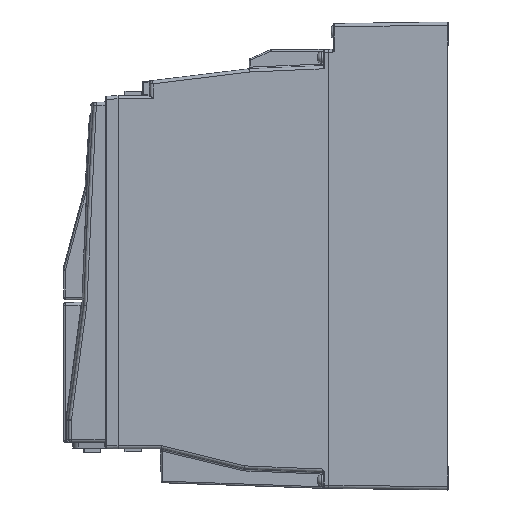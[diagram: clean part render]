
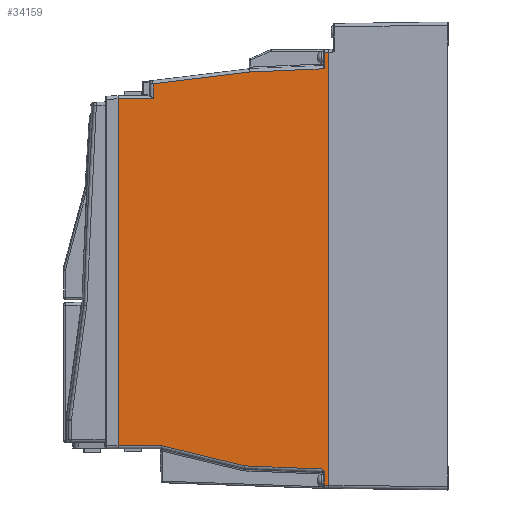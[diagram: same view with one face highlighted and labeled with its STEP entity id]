
A CAD part, left-side view. The second image highlights one B-rep face of the part: STEP entity #34159.
In plain terms, the highlighted planar face has unit normal (-1, 0, 0).
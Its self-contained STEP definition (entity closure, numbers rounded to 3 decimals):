
#659 = DIRECTION ( 'NONE',  ( 0., 0., -1. ) ) ;
#1110 = CARTESIAN_POINT ( 'NONE',  ( -64., 182.5, -289. ) ) ;
#1168 = ORIENTED_EDGE ( 'NONE', *, *, #24129, .T. ) ;
#2434 = FACE_OUTER_BOUND ( 'NONE', #45178, .T. ) ;
#2467 = VERTEX_POINT ( 'NONE', #44204 ) ;
#2636 = LINE ( 'NONE', #16675, #30031 ) ;
#2675 = AXIS2_PLACEMENT_3D ( 'NONE', #16246, #30483, #13183 ) ;
#2777 = ORIENTED_EDGE ( 'NONE', *, *, #27742, .T. ) ;
#2899 = CARTESIAN_POINT ( 'NONE',  ( -64., 76.5, -19. ) ) ;
#2935 = VERTEX_POINT ( 'NONE', #11212 ) ;
#3319 = CARTESIAN_POINT ( 'NONE',  ( -64., 77.016, -277.606 ) ) ;
#3928 = DIRECTION ( 'NONE',  ( 0., 0., -1. ) ) ;
#4038 = EDGE_CURVE ( 'NONE', #17899, #43470, #4392, .T. ) ;
#4219 = VECTOR ( 'NONE', #13878, 1000. ) ;
#4392 = LINE ( 'NONE', #1110, #10071 ) ;
#4527 = DIRECTION ( 'NONE',  ( 0., 1., 0. ) ) ;
#4577 = LINE ( 'NONE', #29588, #45369 ) ;
#5178 = EDGE_CURVE ( 'NONE', #25545, #16874, #43689, .T. ) ;
#5185 = LINE ( 'NONE', #15727, #30390 ) ;
#5238 = VERTEX_POINT ( 'NONE', #19838 ) ;
#5364 = VECTOR ( 'NONE', #11656, 1000. ) ;
#5579 = DIRECTION ( 'NONE',  ( 0., 1., 0. ) ) ;
#5640 = DIRECTION ( 'NONE',  ( 0., 0.999, -0.043 ) ) ;
#6242 = LINE ( 'NONE', #20526, #28991 ) ;
#6420 = VECTOR ( 'NONE', #4527, 1000. ) ;
#7176 = CARTESIAN_POINT ( 'NONE',  ( -64., 182.5, -38.271 ) ) ;
#7691 = CARTESIAN_POINT ( 'NONE',  ( -64., 76.92, -277.036 ) ) ;
#8981 = LINE ( 'NONE', #18440, #44287 ) ;
#9863 = CARTESIAN_POINT ( 'NONE',  ( -64., 77.5, -277.013 ) ) ;
#10004 = CARTESIAN_POINT ( 'NONE',  ( -64., 202.8, -19. ) ) ;
#10071 = VECTOR ( 'NONE', #3928, 1000. ) ;
#10227 = VECTOR ( 'NONE', #21917, 1000. ) ;
#10334 = CARTESIAN_POINT ( 'NONE',  ( -64., 76.5, -279.014 ) ) ;
#10425 = EDGE_CURVE ( 'NONE', #34746, #18951, #4577, .T. ) ;
#10828 = EDGE_CURVE ( 'NONE', #16874, #23246, #33806, .T. ) ;
#11150 = EDGE_CURVE ( 'NONE', #20211, #2467, #6242, .T. ) ;
#11212 = CARTESIAN_POINT ( 'NONE',  ( -64., 122.835, -30.995 ) ) ;
#11653 = VERTEX_POINT ( 'NONE', #15073 ) ;
#11656 = DIRECTION ( 'NONE',  ( 0., -0.999, -0.041 ) ) ;
#13183 = DIRECTION ( 'NONE',  ( 0., 0., -1. ) ) ;
#13878 = DIRECTION ( 'NONE',  ( 0., -1., 0. ) ) ;
#15073 = CARTESIAN_POINT ( 'NONE',  ( -64., 73.67, -19. ) ) ;
#15295 = LINE ( 'NONE', #40747, #6420 ) ;
#15727 = CARTESIAN_POINT ( 'NONE',  ( -64., 213.846, -34.952 ) ) ;
#16246 = CARTESIAN_POINT ( 'NONE',  ( -64., 202.8, -289. ) ) ;
#16675 = CARTESIAN_POINT ( 'NONE',  ( -64., 204.2, -262.5 ) ) ;
#16689 = LINE ( 'NONE', #42154, #4219 ) ;
#16874 = VERTEX_POINT ( 'NONE', #35408 ) ;
#17136 = CARTESIAN_POINT ( 'NONE',  ( -64., 76.733, -278.099 ) ) ;
#17860 = EDGE_CURVE ( 'NONE', #2935, #17899, #31961, .T. ) ;
#17899 = VERTEX_POINT ( 'NONE', #7176 ) ;
#18440 = CARTESIAN_POINT ( 'NONE',  ( -64., 73.67, -19. ) ) ;
#18951 = VERTEX_POINT ( 'NONE', #24981 ) ;
#19838 = CARTESIAN_POINT ( 'NONE',  ( -64., 73.67, -287. ) ) ;
#20211 = VERTEX_POINT ( 'NONE', #44197 ) ;
#20308 = CARTESIAN_POINT ( 'NONE',  ( -64., 76.5, -287. ) ) ;
#20526 = CARTESIAN_POINT ( 'NONE',  ( -64., 202.8, -262.5 ) ) ;
#20532 = ORIENTED_EDGE ( 'NONE', *, *, #17860, .T. ) ;
#20615 = EDGE_CURVE ( 'NONE', #43470, #43654, #15295, .T. ) ;
#21398 = CARTESIAN_POINT ( 'NONE',  ( -64., 76.5, -279.014 ) ) ;
#21917 = DIRECTION ( 'NONE',  ( 0., 0.993, -0.121 ) ) ;
#23218 = VECTOR ( 'NONE', #45461, 1000. ) ;
#23246 = VERTEX_POINT ( 'NONE', #21398 ) ;
#24129 = EDGE_CURVE ( 'NONE', #2467, #25545, #31907, .T. ) ;
#24135 = CARTESIAN_POINT ( 'NONE',  ( -64., 76.535, -278.634 ) ) ;
#24501 = DIRECTION ( 'NONE',  ( 0., -1., 0. ) ) ;
#24935 = ORIENTED_EDGE ( 'NONE', *, *, #31478, .T. ) ;
#24981 = CARTESIAN_POINT ( 'NONE',  ( -64., 76.5, -28.98 ) ) ;
#25545 = VERTEX_POINT ( 'NONE', #31629 ) ;
#26184 = ORIENTED_EDGE ( 'NONE', *, *, #30291, .F. ) ;
#26401 = ORIENTED_EDGE ( 'NONE', *, *, #11150, .T. ) ;
#27742 = EDGE_CURVE ( 'NONE', #23246, #36571, #41951, .T. ) ;
#28222 = CARTESIAN_POINT ( 'NONE',  ( -64., 232.631, -44.384 ) ) ;
#28991 = VECTOR ( 'NONE', #24501, 1000. ) ;
#29588 = CARTESIAN_POINT ( 'NONE',  ( -64., 76.5, -289. ) ) ;
#30031 = VECTOR ( 'NONE', #30907, 1000. ) ;
#30138 = ORIENTED_EDGE ( 'NONE', *, *, #37325, .T. ) ;
#30291 = EDGE_CURVE ( 'NONE', #20211, #43654, #2636, .T. ) ;
#30390 = VECTOR ( 'NONE', #5640, 1000. ) ;
#30483 = DIRECTION ( 'NONE',  ( 1., 0., 0. ) ) ;
#30520 = ORIENTED_EDGE ( 'NONE', *, *, #20615, .T. ) ;
#30907 = DIRECTION ( 'NONE',  ( 0., 0., 1. ) ) ;
#31478 = EDGE_CURVE ( 'NONE', #11653, #34746, #37594, .T. ) ;
#31629 = CARTESIAN_POINT ( 'NONE',  ( -64., 125.725, -275.044 ) ) ;
#31747 = EDGE_CURVE ( 'NONE', #11653, #5238, #8981, .T. ) ;
#31907 = LINE ( 'NONE', #45246, #42596 ) ;
#31961 = LINE ( 'NONE', #28222, #10227 ) ;
#33650 = ORIENTED_EDGE ( 'NONE', *, *, #10828, .T. ) ;
#33806 = B_SPLINE_CURVE_WITH_KNOTS ( 'NONE', 3,
 ( #9863, #42130, #3319, #17136, #38843, #24135, #42824, #10334 ),
 .UNSPECIFIED., .F., .F.,
 ( 4, 2, 2, 4 ),
 ( 0., 0.001, 0.002, 0.002 ),
 .UNSPECIFIED. ) ;
#33992 = PLANE ( 'NONE',  #2675 ) ;
#34159 = ADVANCED_FACE ( 'NONE', ( #2434 ), #33992, .F. ) ;
#34714 = CARTESIAN_POINT ( 'NONE',  ( -64., 76.5, -289. ) ) ;
#34746 = VERTEX_POINT ( 'NONE', #2899 ) ;
#35408 = CARTESIAN_POINT ( 'NONE',  ( -64., 77.5, -277.013 ) ) ;
#35430 = DIRECTION ( 'NONE',  ( 0., -0.972, -0.236 ) ) ;
#35979 = CARTESIAN_POINT ( 'NONE',  ( -64., 204.2, -47.5 ) ) ;
#36121 = ORIENTED_EDGE ( 'NONE', *, *, #5178, .T. ) ;
#36571 = VERTEX_POINT ( 'NONE', #20308 ) ;
#37325 = EDGE_CURVE ( 'NONE', #36571, #5238, #16689, .T. ) ;
#37594 = LINE ( 'NONE', #10004, #42830 ) ;
#38002 = ORIENTED_EDGE ( 'NONE', *, *, #10425, .T. ) ;
#38605 = EDGE_CURVE ( 'NONE', #18951, #2935, #5185, .T. ) ;
#38843 = CARTESIAN_POINT ( 'NONE',  ( -64., 76.652, -278.27 ) ) ;
#40747 = CARTESIAN_POINT ( 'NONE',  ( -64., 202.8, -47.5 ) ) ;
#41011 = ORIENTED_EDGE ( 'NONE', *, *, #31747, .F. ) ;
#41059 = ORIENTED_EDGE ( 'NONE', *, *, #38605, .T. ) ;
#41951 = LINE ( 'NONE', #34714, #23218 ) ;
#42130 = CARTESIAN_POINT ( 'NONE',  ( -64., 77.259, -277.308 ) ) ;
#42154 = CARTESIAN_POINT ( 'NONE',  ( -64., 202.8, -287. ) ) ;
#42596 = VECTOR ( 'NONE', #35430, 1000. ) ;
#42824 = CARTESIAN_POINT ( 'NONE',  ( -64., 76.5, -278.822 ) ) ;
#42830 = VECTOR ( 'NONE', #5579, 1000. ) ;
#43201 = ORIENTED_EDGE ( 'NONE', *, *, #4038, .T. ) ;
#43470 = VERTEX_POINT ( 'NONE', #45094 ) ;
#43654 = VERTEX_POINT ( 'NONE', #35979 ) ;
#43689 = LINE ( 'NONE', #7691, #5364 ) ;
#43853 = DIRECTION ( 'NONE',  ( 0., 0., -1. ) ) ;
#44197 = CARTESIAN_POINT ( 'NONE',  ( -64., 204.2, -262.5 ) ) ;
#44204 = CARTESIAN_POINT ( 'NONE',  ( -64., 177.407, -262.5 ) ) ;
#44287 = VECTOR ( 'NONE', #659, 1000. ) ;
#45094 = CARTESIAN_POINT ( 'NONE',  ( -64., 182.5, -47.5 ) ) ;
#45178 = EDGE_LOOP ( 'NONE', ( #30138, #41011, #24935, #38002, #41059, #20532, #43201, #30520, #26184, #26401, #1168, #36121, #33650, #2777 ) ) ;
#45246 = CARTESIAN_POINT ( 'NONE',  ( -64., 125.536, -275.09 ) ) ;
#45369 = VECTOR ( 'NONE', #43853, 1000. ) ;
#45461 = DIRECTION ( 'NONE',  ( 0., 0., -1. ) ) ;
